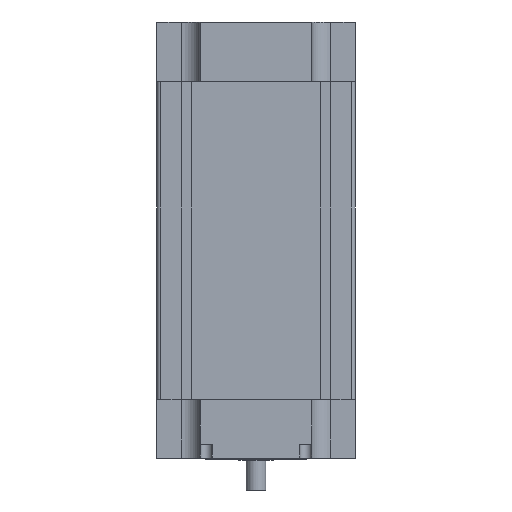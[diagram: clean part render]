
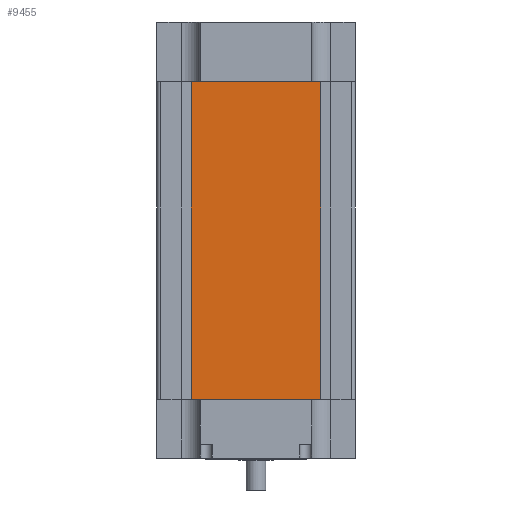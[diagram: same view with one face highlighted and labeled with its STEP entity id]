
A CAD part, front view. The second image highlights one B-rep face of the part: STEP entity #9455.
In plain terms, the highlighted planar face has unit normal (0, -1, 0).
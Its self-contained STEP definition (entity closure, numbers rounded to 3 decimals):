
#1204 = CARTESIAN_POINT ( 'NONE',  ( 65., -48.75, 0. ) ) ;
#1329 = DIRECTION ( 'NONE',  ( 1., 0., 0. ) ) ;
#1330 = VECTOR ( 'NONE', #1329, 1000. ) ;
#1331 = CARTESIAN_POINT ( 'NONE',  ( -65., -48.75, 0. ) ) ;
#1332 = LINE ( 'NONE', #1331, #1330 ) ;
#1335 = CARTESIAN_POINT ( 'NONE',  ( -65., -48.75, 0. ) ) ;
#1437 = CARTESIAN_POINT ( 'NONE',  ( 65., -48.75, 320. ) ) ;
#1443 = LINE ( 'NONE', #1482, #1481 ) ;
#1480 = DIRECTION ( 'NONE',  ( 1., 0., 0. ) ) ;
#1481 = VECTOR ( 'NONE', #1480, 1000. ) ;
#1482 = CARTESIAN_POINT ( 'NONE',  ( -65., -48.75, 320. ) ) ;
#1650 = CARTESIAN_POINT ( 'NONE',  ( -65., -48.75, 320. ) ) ;
#5270 = AXIS2_PLACEMENT_3D ( 'NONE', #5308, #5307, #5306 ) ;
#5275 = CARTESIAN_POINT ( 'NONE',  ( -65., -48.75, 320. ) ) ;
#5276 = LINE ( 'NONE', #5275, #5314 ) ;
#5277 = FACE_OUTER_BOUND ( 'NONE', #9462, .T. ) ;
#5306 = DIRECTION ( 'NONE',  ( -1., 0., 0. ) ) ;
#5307 = DIRECTION ( 'NONE',  ( 0., 1., 0. ) ) ;
#5308 = CARTESIAN_POINT ( 'NONE',  ( -65., -48.75, 320. ) ) ;
#5312 = PLANE ( 'NONE',  #5270 ) ;
#5313 = DIRECTION ( 'NONE',  ( 0., 0., -1. ) ) ;
#5314 = VECTOR ( 'NONE', #5313, 1000. ) ;
#5323 = DIRECTION ( 'NONE',  ( 0., 0., -1. ) ) ;
#5334 = VECTOR ( 'NONE', #5323, 1000. ) ;
#5335 = CARTESIAN_POINT ( 'NONE',  ( 65., -48.75, 320. ) ) ;
#5336 = LINE ( 'NONE', #5335, #5334 ) ;
#6964 = VERTEX_POINT ( 'NONE', #1204 ) ;
#7042 = EDGE_CURVE ( 'NONE', #7043, #6964, #1332, .T. ) ;
#7043 = VERTEX_POINT ( 'NONE', #1335 ) ;
#7144 = VERTEX_POINT ( 'NONE', #1437 ) ;
#7147 = EDGE_CURVE ( 'NONE', #7222, #7144, #1443, .T. ) ;
#7222 = VERTEX_POINT ( 'NONE', #1650 ) ;
#9430 = ORIENTED_EDGE ( 'NONE', *, *, #9486, .F. ) ;
#9447 = ORIENTED_EDGE ( 'NONE', *, *, #7042, .T. ) ;
#9452 = EDGE_CURVE ( 'NONE', #7222, #7043, #5276, .T. ) ;
#9455 = ADVANCED_FACE ( 'NONE', ( #5277 ), #5312, .F. ) ;
#9462 = EDGE_LOOP ( 'NONE', ( #9447, #9430, #9475, #9467 ) ) ;
#9467 = ORIENTED_EDGE ( 'NONE', *, *, #9452, .T. ) ;
#9475 = ORIENTED_EDGE ( 'NONE', *, *, #7147, .F. ) ;
#9486 = EDGE_CURVE ( 'NONE', #7144, #6964, #5336, .T. ) ;
